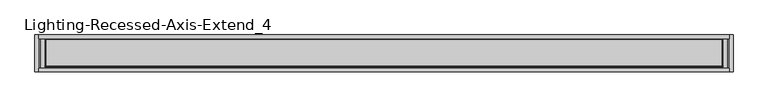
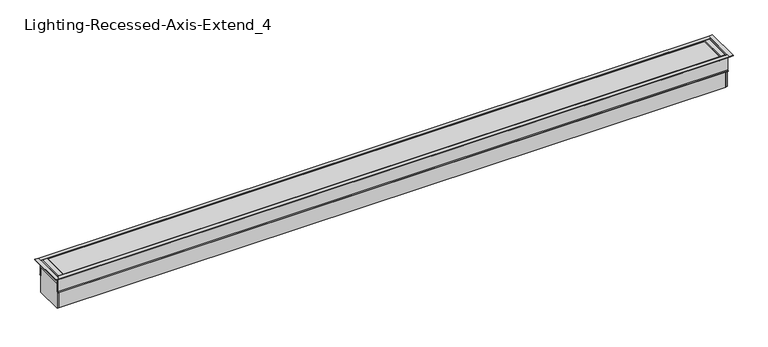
"""IFC4 building model written with IfcOpenShell, lengths in millimetres: light fixture geometry, Lighting-Recessed-Axis-Extend_4 : EX4R-900-80-35-SO-4."""

from ifc_helpers import new_model, si_unit, point, frame, frame_2d, origin, place, context, project, spatial, polyline, circle_curve, trimmed, segment, composite_curve, outline, extrude, faceted_brep, source, transform, mapped, element, save


def lighting_recessed_axis_extend_4_7fae807d(model_context):
    return source(origin(), model_context, "Body", "SolidModel", [
        extrude(outline(polyline([(55.07101, -57.023), (59.735562, -57.023), (59.735562, -58.674), (52.78501, -58.674), (52.78501, 1.651), (66.37401, 1.651), (66.37401, 0.0), (55.07101, 0.0), (55.07101, -57.023)])), frame((-1240.536, 0.0, 0.0), z_axis=(1.0, 0.0, 0.0), x_axis=(0.0, 1.0, 0.0)), (0.0, 0.0, 1.0), 2481.072),
        extrude(outline(polyline([(-55.07101, -57.023), (-55.07101, 0.0), (-66.37401, 0.0), (-66.37401, 1.651), (-52.78501, 1.651), (-52.78501, -58.674), (-59.735562, -58.674), (-59.735562, -57.023), (-55.07101, -57.023)])), frame((-1240.536, 0.0, 0.0), z_axis=(1.0, 0.0, 0.0), x_axis=(0.0, 1.0, 0.0)), (0.0, 0.0, 1.0), 2481.072),
        faceted_brep([(1240.536, -52.78501, 0.0), (1240.536, -52.78501, -23.749), (1242.822, -52.78501, -23.749), (1242.822, -52.78501, 0.0), (1242.822, 52.78501, 0.0), (1242.822, 52.78501, -23.749), (1240.536, 52.78501, -23.749), (1240.536, 52.78501, 0.0), (1240.536, -66.37401, 0.0), (1240.536, -66.37401, 1.651), (1240.536, 66.37401, 1.651), (1240.536, 66.37401, 0.0), (1254.379, -66.37401, 0.0), (1254.379, -66.37401, 1.651), (1254.379, 66.37401, 1.651), (1254.379, 66.37401, 0.0)], [[[0, 1, 2, 3]], [[4, 5, 6, 7]], [[1, 0, 8, 9, 10, 11, 7, 6]], [[2, 1, 6, 5]], [[3, 2, 5, 4]], [[8, 12, 13, 9]], [[11, 10, 14, 15]], [[12, 8, 0, 3, 4, 7, 11, 15]], [[13, 12, 15, 14]], [[9, 13, 14, 10]]]),
        extrude(outline(polyline([(0.5492861, 1215.8726), (-0.92075, 1215.8726), (-0.92075, 1216.66635), (-0.127, 1216.66635), (-0.127, 1223.518), (-2.9332019, 1223.518), (-2.9332019, 1234.186), (1.651, 1234.186), (1.651, 1216.7971437), (0.5492861, 1215.8726)])), frame((0.0, -50.75301, 0.0), z_axis=(0.0, 1.0, 0.0), x_axis=(0.0, 0.0, 1.0)), (0.0, 0.0, 1.0), 101.50602),
        extrude(outline(polyline([(1234.186, -52.78501), (1234.186, 52.78501), (1240.536, 52.78501), (1240.536, -52.78501), (1234.186, -52.78501)])), frame((0.0, 0.0, -123.1265), z_axis=(0.0, 0.0, 1.0), x_axis=(1.0, 0.0, 0.0)), (0.0, 0.0, 1.0), 124.7775),
        faceted_brep([(-1242.822, -52.78501, 0.0), (-1242.822, -52.78501, -23.749), (-1240.536, -52.78501, -23.749), (-1240.536, -52.78501, 0.0), (-1240.536, 52.78501, 0.0), (-1240.536, 52.78501, -23.749), (-1242.822, 52.78501, -23.749), (-1242.822, 52.78501, 0.0), (-1240.536, 66.37401, 0.0), (-1240.536, 66.37401, 1.651), (-1240.536, -66.37401, 1.651), (-1240.536, -66.37401, 0.0), (-1254.379, -66.37401, 0.0), (-1254.379, -66.37401, 1.651), (-1254.379, 66.37401, 0.0), (-1254.379, 66.37401, 1.651)], [[[0, 1, 2, 3]], [[4, 5, 6, 7]], [[1, 0, 7, 6]], [[2, 1, 6, 5]], [[3, 2, 5, 4, 8, 9, 10, 11]], [[12, 11, 10, 13]], [[14, 15, 9, 8]], [[13, 10, 9, 15]], [[12, 13, 15, 14]], [[11, 12, 14, 8, 4, 7, 0, 3]]]),
        extrude(outline(polyline([(0.5492861, -1215.8726), (1.651, -1216.7971437), (1.651, -1234.186), (-2.9332019, -1234.186), (-2.9332019, -1223.518), (-0.127, -1223.518), (-0.127, -1216.66635), (-0.92075, -1216.66635), (-0.92075, -1215.8726), (0.5492861, -1215.8726)])), frame((0.0, -50.75301, 0.0), z_axis=(0.0, 1.0, 0.0), x_axis=(0.0, 0.0, 1.0)), (0.0, 0.0, 1.0), 101.50602),
        extrude(outline(polyline([(-1234.186, 52.78501), (-1234.186, -52.78501), (-1240.536, -52.78501), (-1240.536, 52.78501), (-1234.186, 52.78501)])), frame((0.0, 0.0, -123.1265), z_axis=(0.0, 0.0, 1.0), x_axis=(1.0, 0.0, 0.0)), (0.0, 0.0, 1.0), 124.7775),
        extrude(outline(composite_curve([segment(polyline([(-44.9537362, -3.2385009), (-45.2924281, -9.7011263)]), True, "CONTINUOUS"), segment(trimmed(circle_curve(frame_2d((-48.03521, -12.7)), 4.064), [point((-45.2924281, -9.7011263))], [point((-46.1628914, -16.3070097))], False, "CARTESIAN"), True, "CONTINUOUS"), segment(trimmed(circle_curve(frame_2d((-42.930354, -15.5181543)), 3.3274001), [point((-46.1628914, -16.3070097))], [point((-45.3476056, -17.8047425))], True, "CARTESIAN"), True, "CONTINUOUS"), segment(trimmed(circle_curve(frame_2d((-37.9113277, -10.7704292)), 10.2362001), [point((-45.3476056, -17.8047425))], [point((-43.9929166, -19.0041445))], True, "CARTESIAN"), True, "CONTINUOUS"), segment(trimmed(circle_curve(frame_2d((-44.4833673, -19.6681538)), 0.8255), [point((-43.9929166, -19.0041445))], [point((-44.973818, -20.3321631))], False, "CARTESIAN"), True, "CONTINUOUS"), segment(trimmed(circle_curve(frame_2d((-37.9113269, -10.7704283)), 11.8872013), [point((-44.973818, -20.3321631))], [point((-46.5470052, -18.9393092))], False, "CARTESIAN"), True, "CONTINUOUS"), segment(trimmed(circle_curve(frame_2d((-42.930354, -15.5181543)), 4.9784001), [point((-46.5470052, -18.9393092))], [point((-47.8918907, -15.10874))], False, "CARTESIAN"), True, "CONTINUOUS"), segment(trimmed(circle_curve(frame_2d((-48.03521, -12.7)), 2.413), [point((-47.8918907, -15.10874))], [point((-46.2564041, -11.0695342))], True, "CARTESIAN"), True, "CONTINUOUS"), segment(trimmed(circle_curve(frame_2d((-44.3839769, -9.3532544)), 2.54), [point((-46.2564041, -11.0695342))], [point((-46.9204959, -9.2203211))], False, "CARTESIAN"), True, "CONTINUOUS"), segment(polyline([(-46.9204959, -9.2203211), (-46.607002, -3.2385009), (-49.61001, -3.2385009), (-49.61001, -1.3335), (49.61001, -1.3335), (49.61001, -3.2385009), (46.607002, -3.2385009), (46.9204959, -9.2203211)]), True, "CONTINUOUS"), segment(trimmed(circle_curve(frame_2d((44.3839769, -9.3532544)), 2.54), [point((46.9204959, -9.2203211))], [point((46.2564041, -11.0695342))], False, "CARTESIAN"), True, "CONTINUOUS"), segment(trimmed(circle_curve(frame_2d((48.03521, -12.7)), 2.413), [point((46.2564041, -11.0695342))], [point((47.8918907, -15.10874))], True, "CARTESIAN"), True, "CONTINUOUS"), segment(trimmed(circle_curve(frame_2d((42.930354, -15.5181543)), 4.9784001), [point((47.8918907, -15.10874))], [point((46.5470052, -18.9393092))], False, "CARTESIAN"), True, "CONTINUOUS"), segment(trimmed(circle_curve(frame_2d((37.9113269, -10.7704283)), 11.8872013), [point((46.5470052, -18.9393092))], [point((44.973818, -20.3321631))], False, "CARTESIAN"), True, "CONTINUOUS"), segment(trimmed(circle_curve(frame_2d((44.4833673, -19.6681538)), 0.8255), [point((44.973818, -20.3321631))], [point((43.9929166, -19.0041445))], False, "CARTESIAN"), True, "CONTINUOUS"), segment(trimmed(circle_curve(frame_2d((37.9113277, -10.7704292)), 10.2362001), [point((43.9929166, -19.0041445))], [point((45.3476056, -17.8047425))], True, "CARTESIAN"), True, "CONTINUOUS"), segment(trimmed(circle_curve(frame_2d((42.930354, -15.5181543)), 3.3274001), [point((45.3476056, -17.8047425))], [point((46.1628914, -16.3070097))], True, "CARTESIAN"), True, "CONTINUOUS"), segment(trimmed(circle_curve(frame_2d((48.03521, -12.7)), 4.064), [point((46.1628914, -16.3070097))], [point((45.2924281, -9.7011263))], False, "CARTESIAN"), True, "CONTINUOUS"), segment(polyline([(45.2924281, -9.7011263), (44.9537362, -3.2385009), (-44.9537362, -3.2385009)]), True, "CONTINUOUS")], self_intersect=False)), frame((-1219.2, 0.0, 0.0), z_axis=(1.0, 0.0, 0.0), x_axis=(0.0, 1.0, 0.0)), (0.0, 0.0, 1.0), 2438.4),
        extrude(outline(composite_curve([segment(polyline([(-50.75301, -13.2588), (-50.75301, -121.0945), (50.75301, -121.0945), (50.75301, -13.2588), (48.9135897, -13.2588)]), True, "CONTINUOUS"), segment(trimmed(circle_curve(frame_2d((47.4072397, -13.2588)), 1.5063501), [point((48.9135897, -13.2588))], [point((46.6540646, -14.5633374))], False, "CARTESIAN"), True, "CONTINUOUS"), segment(trimmed(circle_curve(frame_2d((47.8452221, -12.5001921)), 2.382315), [point((46.6540646, -14.5633374))], [point((45.4706616, -12.3081318))], False, "CARTESIAN"), True, "CONTINUOUS"), segment(polyline([(45.4706616, -12.3081318), (48.84801, -9.4742), (48.84801, -11.2268), (50.75301, -11.2268), (50.75301, -4.699), (48.84801, -4.699), (48.84801, -6.223), (47.19701, -6.1364748), (47.19701, -3.429), (50.75301, -3.429), (50.75301, 1.651), (52.78501, 1.651), (52.78501, -123.1265), (-52.78501, -123.1265), (-52.78501, 1.651), (-50.75301, 1.651), (-50.75301, -3.429), (-47.19701, -3.429), (-47.19701, -6.1364748), (-48.84801, -6.223), (-48.84801, -4.699), (-50.75301, -4.699), (-50.75301, -11.2268), (-48.84801, -11.2268), (-48.84801, -9.4742), (-45.4706616, -12.3081318)]), True, "CONTINUOUS"), segment(trimmed(circle_curve(frame_2d((-47.8452221, -12.5001921)), 2.382315), [point((-45.4706616, -12.3081318))], [point((-46.6540646, -14.5633374))], False, "CARTESIAN"), True, "CONTINUOUS"), segment(trimmed(circle_curve(frame_2d((-47.4072397, -13.2588)), 1.5063501), [point((-46.6540646, -14.5633374))], [point((-48.9135897, -13.2588))], False, "CARTESIAN"), True, "CONTINUOUS"), segment(polyline([(-48.9135897, -13.2588), (-50.75301, -13.2588)]), True, "CONTINUOUS")], self_intersect=False)), frame((-1234.186, 0.0, 0.0), z_axis=(1.0, 0.0, 0.0), x_axis=(0.0, 1.0, 0.0)), (0.0, 0.0, 1.0), 2468.372),
    ])


if __name__ == "__main__":
    model = new_model("IFC4")
    model_context = context("Model", 3, world=origin())
    ifc_project = project(units=[si_unit("LENGTHUNIT", "METRE", prefix="MILLI")], contexts=[model_context])
    site = spatial("IfcSite", under=ifc_project)
    building = spatial("IfcBuilding", under=site)
    placement = place(None, origin())
    lighting_recessed_axis_extend_4_shape = lighting_recessed_axis_extend_4_7fae807d(model_context)
    element("IfcLightFixture", 1, ObjectType="Lighting-Recessed-Axis-Extend_4 : EX4R-900-80-35-SO-4", at=placement, inside=building, context=model_context, shape_type="MappedRepresentation", body=[
        mapped(lighting_recessed_axis_extend_4_shape, transform((0.0, 0.0, 0.0), x_axis=(1.0, 0.0, 0.0), y_axis=(0.0, 1.0, 0.0), z_axis=(0.0, 0.0, 1.0))),
    ])
    save(model, "model.ifc")
